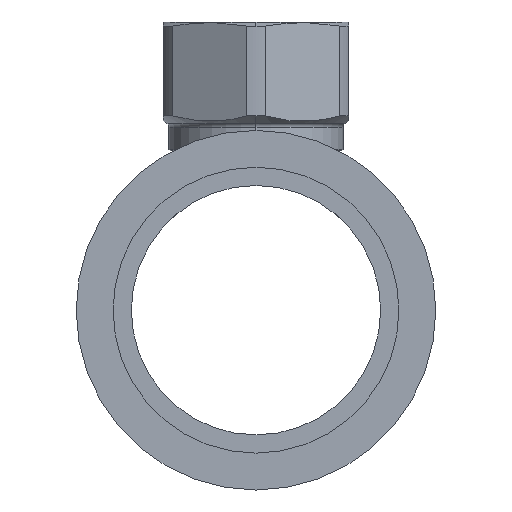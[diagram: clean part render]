
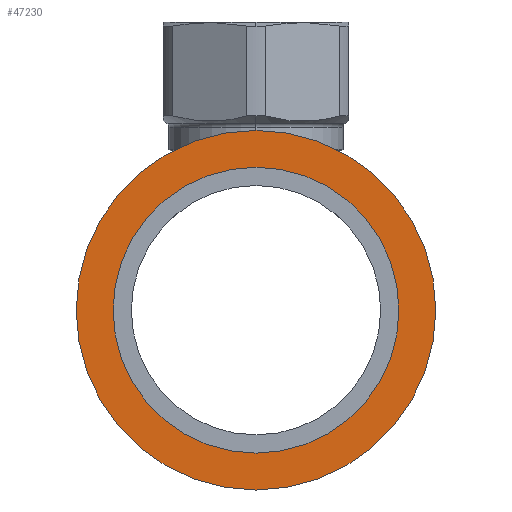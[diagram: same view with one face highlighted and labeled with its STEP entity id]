
A CAD part, left-side view. The second image highlights one B-rep face of the part: STEP entity #47230.
In plain terms, the highlighted planar face has unit normal (-1, 0, 0).
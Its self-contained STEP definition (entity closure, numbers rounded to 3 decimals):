
#46750=CARTESIAN_POINT('',(18.834,40.179,0.))
;
#46760=VERTEX_POINT('',#46750);
#46790=CARTESIAN_POINT('',(18.834,64.829,0.))
;
#46800=DIRECTION('',(1.,0.,0.));
#46810=DIRECTION('',(0.,1.,0.));
#46820=AXIS2_PLACEMENT_3D('',#46790,#46800,#46810);
#46830=CIRCLE('',#46820,24.65);
#46840=CARTESIAN_POINT('',(18.834,89.479,0.)
);
#46850=VERTEX_POINT('',#46840);
#46860=EDGE_CURVE('',#46760,#46850,#46830,.T.);
#46980=CARTESIAN_POINT('',(18.834,94.129,0.)
);
#46990=DIRECTION('',(1.,-0.,0.));
#47000=DIRECTION('',(0.,1.,0.));
#47010=AXIS2_PLACEMENT_3D('',#46980,#46990,#47000);
#47020=PLANE('',#47010);
#47030=EDGE_CURVE('',#46850,#46760,#46830,.T.);
#47040=ORIENTED_EDGE('',*,*,#47030,.T.);
#47050=ORIENTED_EDGE('',*,*,#46860,.T.);
#47060=EDGE_LOOP('',(#47050,#47040));
#47070=FACE_BOUND('',#47060,.T.);
#47080=CARTESIAN_POINT('',(18.834,64.829,0.))
;
#47090=DIRECTION('',(1.,0.,0.));
#47100=DIRECTION('',(0.,-1.,0.));
#47110=AXIS2_PLACEMENT_3D('',#47080,#47090,#47100);
#47120=CIRCLE('',#47110,31.);
#47130=CARTESIAN_POINT('',(18.834,33.829,
0.));
#47140=VERTEX_POINT('',#47130);
#47150=CARTESIAN_POINT('',(18.834,95.829,
0.));
#47160=VERTEX_POINT('',#47150);
#47170=EDGE_CURVE('',#47140,#47160,#47120,.T.);
#47180=ORIENTED_EDGE('',*,*,#47170,.F.);
#47190=EDGE_CURVE('',#47160,#47140,#47120,.T.);
#47200=ORIENTED_EDGE('',*,*,#47190,.F.);
#47210=EDGE_LOOP('',(#47200,#47180));
#47220=FACE_OUTER_BOUND('',#47210,.T.);
#47230=ADVANCED_FACE('',(#47070,#47220),#47020,.F.);
